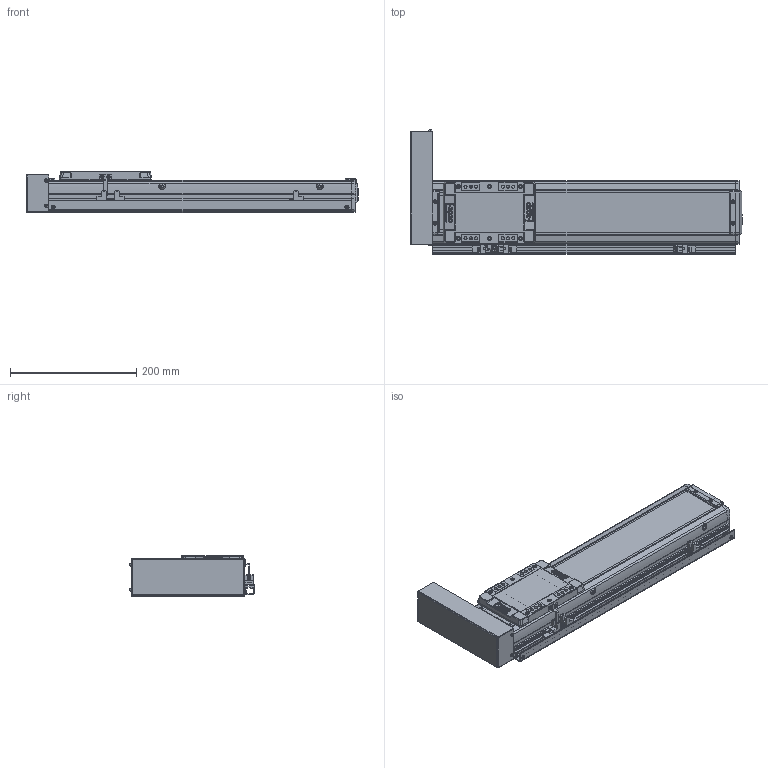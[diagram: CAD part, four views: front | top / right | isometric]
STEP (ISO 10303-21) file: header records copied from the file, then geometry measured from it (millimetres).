
FILE_DESCRIPTION(('STEP AP214'),'1');
FILE_NAME('Z:/Web/3D/SAN100/SAN100 양산용 (STEP)/SAN100ㅁㅁ-300PL+3SR.stp','2013-04-25T06:41:12',(' '),(' '),'Spatial InterOp 3D',' ',' ');
FILE_SCHEMA(('automotive_design'));
Length unit declared in the file: millimetre
Products named in the file (49): EE-SX674; SBK-SX674-352; 스크루 : Round - M3.0 x 6.0; M3.0 x 6.0; SRL-16x17-380L; SGD-SAN100; BTCV-SAN65; BHCS M3 X 6L; SUS COVER; SFX-SAN100; RRCV-SAN100; 스크루 : Round - M4.0 x 10.0; FRBL-SAN100; SLBL-SAN100; SLCV-SAN100; 스크루 : Countersunk - M3.0 x 6.0; BASE; 스크루 : Round - M5.0 x 6.0
Bounding box: 526.5 x 197.06 x 66 mm (x, y, z)
Volume: 1843303.6 mm3; surface area: 474616.1 mm2
Topology: 49 solids, 50 shells, 2349 faces, 6116 edges, 3963 vertices
Faces by surface type: plane 1280, cylinder 785, cone 186, sphere 64, torus 18, bspline 16
Entity records: 92560 total; most frequent: CARTESIAN_POINT 13755, DIRECTION 12863, ORIENTED_EDGE 12068, EDGE_CURVE 6034, AXIS2_PLACEMENT_3D 4532, VERTEX_POINT 3963, LINE 3799, VECTOR 3799
